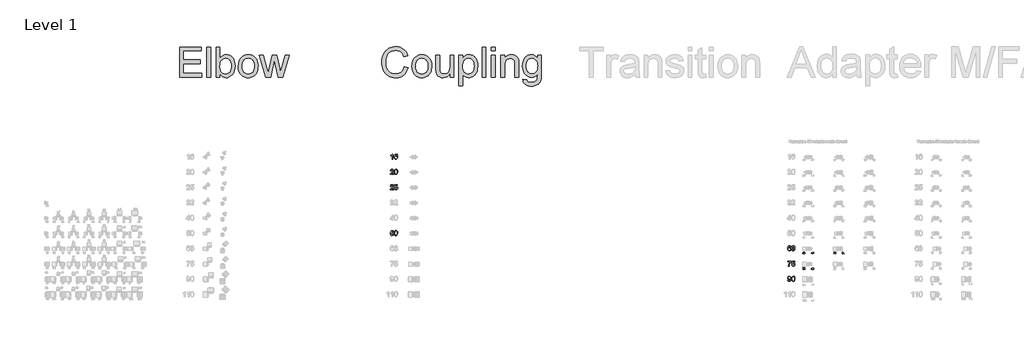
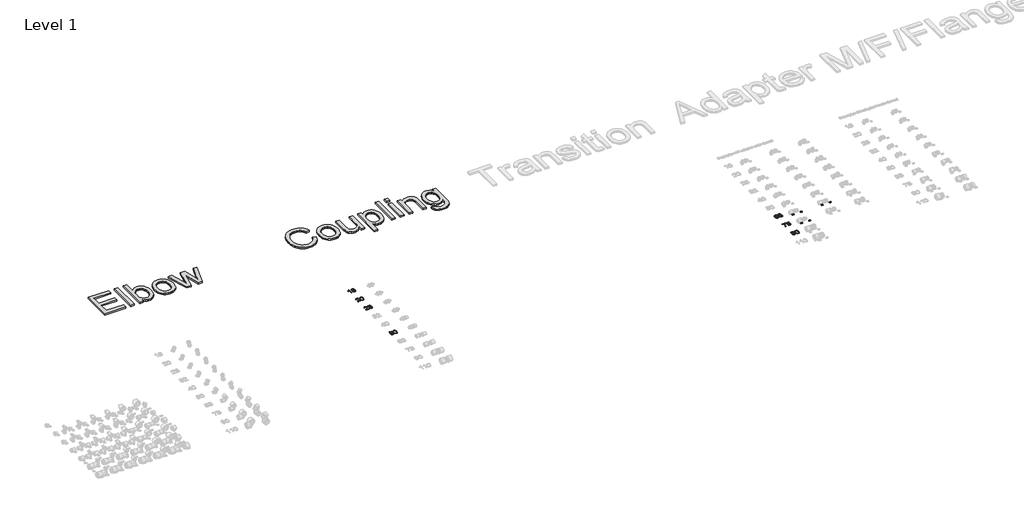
# One storey, part 33 of 58: 15 proxies.
"""IFC4 building model written with IfcOpenShell, lengths in millimetres."""

from ifc_helpers import new_model, si_unit, frame, origin, place, context, project, spatial, polyline, outline, extrude, element, save

model = new_model("IFC4")

# Units and contexts
model_context = context("Model", 3, world=origin())
ifc_project = project(units=[si_unit("LENGTHUNIT", "METRE", prefix="MILLI")], contexts=[model_context])

# Site, building, storey
site = spatial("IfcSite", under=ifc_project)
building = spatial("IfcBuilding", under=site)
storey = spatial("IfcBuildingStorey", under=building, Name="Level 1", Elevation=27.3876384)

# Proxies
placement = place(None, origin())
element("IfcBuildingElementProxy", 1, Name="100mm Arial", ObjectType="100mm Arial", at=placement, inside=storey, context=model_context, shape_type="SweptSolid", body=[
    extrude(outline(polyline([(21031.5703727, 18606.196048), (21019.0133339, 18606.196048), (21019.0133339, 18684.4813365), (21007.1184827, 18676.0077879), (20993.8992564, 18669.6679549), (20993.8992564, 18681.5382806), (21012.3056189, 18693.285979), (21023.4769688, 18706.6523581), (21031.5703727, 18706.6523581), (21031.5703727, 18606.196048)])), frame((0.0, 0.0, 27.3876384), z_axis=(0.0, 0.0, 1.0), x_axis=(1.0, 0.0, 0.0)), (0.0, 0.0, 1.0), 2.0),
    extrude(outline(polyline([(21125.7481635, 18679.9686507), (21113.1911247, 18678.3990209), (21108.4331842, 18688.871395), (21095.85162, 18694.0953193), (21084.5208545, 18691.0541615), (21075.949204, 18679.6375569), (21072.3807487, 18657.2580689), (21083.4539967, 18667.2767219), (21097.1759952, 18670.5508717), (21108.7765407, 18668.3129229), (21118.5131509, 18661.5990764), (21125.1166327, 18651.3413001), (21127.3177933, 18638.4715617), (21123.1729895, 18621.1443197), (21111.7686476, 18608.8815865), (21095.3120597, 18604.6264181), (21081.0658295, 18607.4468468), (21069.7197356, 18615.9081326), (21062.2977163, 18630.8441416), (21059.8237099, 18653.0887396), (21062.5705621, 18678.0985839), (21070.8111188, 18695.1989653), (21082.0621765, 18703.7890099), (21096.6364349, 18706.6523581), (21107.6545007, 18704.8803932), (21116.4775372, 18699.5644983), (21122.6579547, 18691.1216066), (21125.7481635, 18679.9686507)]), holes=[polyline([(21072.3807487, 18638.6677654), (21075.2870164, 18627.7907211), (21083.0125383, 18619.8935209), (21094.3310411, 18617.1834569), (21102.617583, 18618.5875398), (21109.13216, 18622.7997887), (21113.3536059, 18629.4216646), (21114.7607545, 18638.0546288), (21113.372, 18646.3411707), (21109.2057364, 18652.659544), (21102.5807948, 18656.6602607), (21093.8160063, 18657.9938329), (21078.6224799, 18652.659544), (21073.9411815, 18646.4944549), (21072.3807487, 18638.6677654)])]), frame((0.0, 0.0, 27.3876384), z_axis=(0.0, 0.0, 1.0), x_axis=(1.0, 0.0, 0.0)), (0.0, 0.0, 1.0), 2.0),
])
element("IfcBuildingElementProxy", 2, Name="100mm Arial", ObjectType="100mm Arial", at=placement, inside=storey, context=model_context, shape_type="SweptSolid", body=[
    extrude(outline(polyline([(21048.836301, 18318.7530867), (21048.836301, 18306.196048), (20982.9118475, 18306.196048), (20984.2607481, 18314.8535376), (20991.8881681, 18328.1831285), (21007.6089921, 18342.7389928), (21029.2895043, 18363.6592156), (21034.7096324, 18377.8839861), (21029.5960726, 18389.3986925), (21016.2419562, 18394.0953193), (21002.3237541, 18389.5090571), (20997.0385161, 18376.829391), (20984.4814773, 18378.3990209), (20987.5257008, 18390.5452581), (20994.1077228, 18399.4173455), (21003.8841869, 18404.843605), (21016.5117363, 18406.6523581), (21029.2312563, 18404.6412699), (21038.9893263, 18398.6080052), (21045.1973349, 18389.5948963), (21047.2666711, 18378.6442756), (21045.0348537, 18366.7371616), (21037.6159001, 18354.4253775), (21019.6264706, 18337.2207629), (21005.1809709, 18325.1419707), (20999.5155882, 18318.7530867), (21048.836301, 18318.7530867)])), frame((0.0, 0.0, 27.3876384), z_axis=(0.0, 0.0, 1.0), x_axis=(1.0, 0.0, 0.0)), (0.0, 0.0, 1.0), 2.0),
    extrude(outline(polyline([(21061.3933398, 18355.6148627), (21065.0844224, 18384.5181247), (21076.0473059, 18401.1831791), (21094.3555665, 18406.6523581), (21109.0217954, 18403.4149966), (21119.150813, 18394.0830566), (21125.0369249, 18379.220624), (21127.3177933, 18355.6148627), (21123.6634988, 18326.8342279), (21112.7374036, 18310.1323853), (21104.5060439, 18306.0029099), (21094.3555665, 18304.6264181), (21081.3080184, 18307.0176511), (21071.39973, 18314.19135), (21063.8949373, 18331.1813668), (21061.3933398, 18355.6148627)]), holes=[polyline([(21073.9503785, 18355.6393881), (21075.4219065, 18335.8871907), (21079.8364905, 18324.4552577), (21086.4093154, 18319.0014071), (21094.3555665, 18317.1834569), (21102.3018176, 18319.0075385), (21108.8746426, 18324.4797831), (21113.2892265, 18335.9178475), (21114.7607545, 18355.6393881), (21113.3382775, 18374.9470615), (21109.0708463, 18386.4678993), (21102.5102841, 18392.1884643), (21094.2084137, 18394.0953193), (21086.3480018, 18392.4153249), (21080.0326942, 18387.3753416), (21075.4709574, 18375.1371339), (21073.9503785, 18355.6393881)])]), frame((0.0, 0.0, 27.3876384), z_axis=(0.0, 0.0, 1.0), x_axis=(1.0, 0.0, 0.0)), (0.0, 0.0, 1.0), 2.0),
])
element("IfcBuildingElementProxy", 3, Name="100mm Arial", ObjectType="100mm Arial", at=placement, inside=storey, context=model_context, shape_type="SweptSolid", body=[
    extrude(outline(polyline([(21048.836301, 18018.7530867), (21048.836301, 18006.196048), (20982.9118475, 18006.196048), (20984.2607481, 18014.8535376), (20991.8881681, 18028.1831285), (21007.6089921, 18042.7389928), (21029.2895043, 18063.6592156), (21034.7096324, 18077.8839861), (21029.5960726, 18089.3986925), (21016.2419562, 18094.0953193), (21002.3237541, 18089.5090571), (20997.0385161, 18076.829391), (20984.4814773, 18078.3990209), (20987.5257008, 18090.5452581), (20994.1077228, 18099.4173455), (21003.8841869, 18104.843605), (21016.5117363, 18106.6523581), (21029.2312563, 18104.6412699), (21038.9893263, 18098.6080052), (21045.1973349, 18089.5948963), (21047.2666711, 18078.6442756), (21045.0348537, 18066.7371616), (21037.6159001, 18054.4253775), (21019.6264706, 18037.2207629), (21005.1809709, 18025.1419707), (20999.5155882, 18018.7530867), (21048.836301, 18018.7530867)])), frame((0.0, 0.0, 27.3876384), z_axis=(0.0, 0.0, 1.0), x_axis=(1.0, 0.0, 0.0)), (0.0, 0.0, 1.0), 2.0),
    extrude(outline(polyline([(21061.3933398, 18032.8797554), (21073.9503785, 18034.4493852), (21080.2779488, 18021.5122017), (21093.3990733, 18017.1834569), (21102.3999195, 18018.6887074), (21109.1444227, 18023.2044589), (21113.3566716, 18030.2095452), (21114.7607545, 18039.1828002), (21109.500042, 18054.0942837), (21102.8934945, 18058.196168), (21093.5952771, 18059.5634627), (21082.57108, 18057.3806962), (21075.5200084, 18051.7153135), (21062.9629696, 18053.2849434), (21073.9503785, 18105.0827283), (21122.6089038, 18105.0827283), (21122.6089038, 18092.5256895), (21084.1039216, 18092.5256895), (21078.7328445, 18064.8609635), (21087.7030338, 18070.305617), (21097.1024188, 18072.1205015), (21108.8347887, 18069.87029), (21118.5744645, 18063.1196554), (21125.1319611, 18052.8312222), (21127.3177933, 18039.9676151), (21125.3496246, 18027.4105764), (21119.4451186, 18016.6684221), (21108.1388786, 18007.6369191), (21093.3500224, 18004.6264181), (21081.0167785, 18006.5608643), (21071.1912636, 18012.3642028), (21064.4559574, 18021.3619832), (21061.3933398, 18032.8797554)])), frame((0.0, 0.0, 27.3876384), z_axis=(0.0, 0.0, 1.0), x_axis=(1.0, 0.0, 0.0)), (0.0, 0.0, 1.0), 2.0),
])
element("IfcBuildingElementProxy", 4, Name="100mm Arial", ObjectType="100mm Arial", at=placement, inside=storey, context=model_context, shape_type="SweptSolid", body=[
    extrude(outline(polyline([(20984.4814773, 17132.8797554), (20997.0385161, 17134.4493852), (21003.3660864, 17121.5122017), (21016.4872109, 17117.1834569), (21025.488057, 17118.6887074), (21032.2325603, 17123.2044589), (21036.4448091, 17130.2095452), (21037.8488921, 17139.1828002), (21032.5881795, 17154.0942837), (21025.981632, 17158.196168), (21016.6834146, 17159.5634627), (21005.6592175, 17157.3806962), (20998.6081459, 17151.7153135), (20986.0511071, 17153.2849434), (20997.0385161, 17205.0827283), (21045.6970413, 17205.0827283), (21045.6970413, 17192.5256895), (21007.1920591, 17192.5256895), (21001.820982, 17164.8609635), (21010.7911713, 17170.305617), (21020.1905563, 17172.1205015), (21031.9229263, 17169.87029), (21041.6626021, 17163.1196554), (21048.2200987, 17152.8312222), (21050.4059308, 17139.9676151), (21048.4377622, 17127.4105764), (21042.5332561, 17116.6684221), (21031.2270162, 17107.6369191), (21016.43816, 17104.6264181), (21004.1049161, 17106.5608643), (20994.2794011, 17112.3642028), (20987.5440949, 17121.3619832), (20984.4814773, 17132.8797554)])), frame((0.0, 0.0, 27.3876384), z_axis=(0.0, 0.0, 1.0), x_axis=(1.0, 0.0, 0.0)), (0.0, 0.0, 1.0), 2.0),
    extrude(outline(polyline([(21061.3933398, 17155.6148627), (21065.0844224, 17184.5181247), (21076.0473059, 17201.1831791), (21094.3555665, 17206.6523581), (21109.0217954, 17203.4149966), (21119.150813, 17194.0830566), (21125.0369249, 17179.220624), (21127.3177933, 17155.6148627), (21123.6634988, 17126.8342279), (21112.7374036, 17110.1323853), (21104.5060439, 17106.0029099), (21094.3555665, 17104.6264181), (21081.3080184, 17107.0176511), (21071.39973, 17114.19135), (21063.8949373, 17131.1813668), (21061.3933398, 17155.6148627)]), holes=[polyline([(21073.9503785, 17155.6393881), (21075.4219065, 17135.8871907), (21079.8364905, 17124.4552577), (21086.4093154, 17119.0014071), (21094.3555665, 17117.1834569), (21102.3018176, 17119.0075385), (21108.8746426, 17124.4797831), (21113.2892265, 17135.9178475), (21114.7607545, 17155.6393881), (21113.3382775, 17174.9470615), (21109.0708463, 17186.4678993), (21102.5102841, 17192.1884643), (21094.2084137, 17194.0953193), (21086.3480018, 17192.4153249), (21080.0326942, 17187.3753416), (21075.4709574, 17175.1371339), (21073.9503785, 17155.6393881)])]), frame((0.0, 0.0, 27.3876384), z_axis=(0.0, 0.0, 1.0), x_axis=(1.0, 0.0, 0.0)), (0.0, 0.0, 1.0), 2.0),
])
element("IfcBuildingElementProxy", 5, Name="100mm Arial", ObjectType="100mm Arial", at=placement, inside=storey, context=model_context, shape_type="SweptSolid", body=[
    extrude(outline(polyline([(28848.836301, 16879.9686507), (28836.2792622, 16878.3990209), (28831.5213218, 16888.871395), (28818.9397575, 16894.0953193), (28807.6089921, 16891.0541615), (28799.0373416, 16879.6375569), (28795.4688862, 16857.2580689), (28806.5421343, 16867.2767219), (28820.2641327, 16870.5508717), (28831.8646783, 16868.3129229), (28841.6012884, 16861.5990764), (28848.2047702, 16851.3413001), (28850.4059308, 16838.4715617), (28846.261127, 16821.1443197), (28834.8567852, 16808.8815865), (28818.4001973, 16804.6264181), (28804.153967, 16807.4468468), (28792.8078731, 16815.9081326), (28785.3858539, 16830.8441416), (28782.9118475, 16853.0887396), (28785.6586997, 16878.0985839), (28793.8992564, 16895.1989653), (28805.1503141, 16903.7890099), (28819.7245724, 16906.6523581), (28830.7426382, 16904.8803932), (28839.5656747, 16899.5644983), (28845.7460922, 16891.1216066), (28848.836301, 16879.9686507)]), holes=[polyline([(28795.4688862, 16838.6677654), (28798.375154, 16827.7907211), (28806.1006759, 16819.8935209), (28817.4191786, 16817.1834569), (28825.7057205, 16818.5875398), (28832.2202975, 16822.7997887), (28836.4417434, 16829.4216646), (28837.8488921, 16838.0546288), (28836.4601375, 16846.3411707), (28832.2938739, 16852.659544), (28825.6689323, 16856.6602607), (28816.9041438, 16857.9938329), (28801.7106174, 16852.659544), (28797.029319, 16846.4944549), (28795.4688862, 16838.6677654)])]), frame((0.0, 0.0, 27.3876384), z_axis=(0.0, 0.0, 1.0), x_axis=(1.0, 0.0, 0.0)), (0.0, 0.0, 1.0), 2.0),
    extrude(outline(polyline([(28861.3933398, 16832.8797554), (28873.9503785, 16834.4493852), (28880.8788228, 16821.2301588), (28893.8405317, 16817.1834569), (28902.4489704, 16818.5752771), (28909.0953718, 16822.7507378), (28914.7607545, 16836.5340498), (28909.1444227, 16849.5202843), (28894.8706013, 16854.6583695), (28886.0659589, 16853.2849434), (28887.4639105, 16865.8419821), (28889.4749987, 16865.6948293), (28903.7242947, 16869.3000729), (28908.4699724, 16873.8740723), (28910.051865, 16880.3855837), (28905.4656028, 16890.2080329), (28893.644328, 16894.0953193), (28881.6759004, 16890.1712447), (28875.5200084, 16878.3990209), (28862.9629696, 16879.9686507), (28866.6601837, 16891.2442339), (28873.23914, 16899.6626002), (28882.2399862, 16904.9049186), (28893.2028696, 16906.6523581), (28908.3473451, 16903.2065301), (28918.9423465, 16893.788751), (28922.6089038, 16881.1213477), (28919.1262875, 16869.5453275), (28908.8255917, 16861.2311944), (28922.5108019, 16852.6472812), (28927.3177933, 16836.3133206), (28924.9142976, 16824.0751129), (28917.7038105, 16813.8479935), (28906.8206348, 16806.931812), (28893.3990733, 16804.6264181), (28881.2589675, 16806.5945868), (28871.3752046, 16812.4990928), (28864.5019426, 16821.5305958), (28861.3933398, 16832.8797554)])), frame((0.0, 0.0, 27.3876384), z_axis=(0.0, 0.0, 1.0), x_axis=(1.0, 0.0, 0.0)), (0.0, 0.0, 1.0), 2.0),
])
element("IfcBuildingElementProxy", 6, Name="100mm Arial", ObjectType="100mm Arial", at=placement, inside=storey, context=model_context, shape_type="SweptSolid", body=[
    extrude(outline(polyline([(28784.4814773, 16592.5256895), (28784.4814773, 16605.0827283), (28850.4059308, 16605.0827283), (28850.4059308, 16594.9291852), (28831.7052628, 16567.914384), (28817.3946531, 16533.492892), (28812.7348145, 16506.196048), (28800.1777758, 16506.196048), (28805.1687082, 16534.5229616), (28818.8661811, 16566.5409579), (28837.8488921, 16592.5256895), (28784.4814773, 16592.5256895)])), frame((0.0, 0.0, 27.3876384), z_axis=(0.0, 0.0, 1.0), x_axis=(1.0, 0.0, 0.0)), (0.0, 0.0, 1.0), 2.0),
    extrude(outline(polyline([(28861.3933398, 16532.8797554), (28873.9503785, 16534.4493852), (28880.2779488, 16521.5122017), (28893.3990733, 16517.1834569), (28902.3999195, 16518.6887074), (28909.1444227, 16523.2044589), (28913.3566716, 16530.2095452), (28914.7607545, 16539.1828002), (28909.500042, 16554.0942837), (28902.8934945, 16558.196168), (28893.5952771, 16559.5634627), (28882.57108, 16557.3806962), (28875.5200084, 16551.7153135), (28862.9629696, 16553.2849434), (28873.9503785, 16605.0827283), (28922.6089038, 16605.0827283), (28922.6089038, 16592.5256895), (28884.1039216, 16592.5256895), (28878.7328445, 16564.8609635), (28887.7030338, 16570.305617), (28897.1024188, 16572.1205015), (28908.8347887, 16569.87029), (28918.5744645, 16563.1196554), (28925.1319611, 16552.8312222), (28927.3177933, 16539.9676151), (28925.3496246, 16527.4105764), (28919.4451186, 16516.6684221), (28908.1388786, 16507.6369191), (28893.3500224, 16504.6264181), (28881.0167785, 16506.5608643), (28871.1912636, 16512.3642028), (28864.4559574, 16521.3619832), (28861.3933398, 16532.8797554)])), frame((0.0, 0.0, 27.3876384), z_axis=(0.0, 0.0, 1.0), x_axis=(1.0, 0.0, 0.0)), (0.0, 0.0, 1.0), 2.0),
])
element("IfcBuildingElementProxy", 7, Name="100mm Arial", ObjectType="100mm Arial", at=placement, inside=storey, context=model_context, shape_type="SweptSolid", body=[
    extrude(outline(polyline([(28786.0511071, 16231.3101255), (28798.6081459, 16232.8797554), (28804.2490032, 16220.899065), (28814.9421065, 16217.1834569), (28825.1079123, 16219.5746899), (28831.9995683, 16225.9635738), (28836.107584, 16236.8774064), (28837.9224685, 16251.4455334), (28837.8488921, 16253.89808), (28827.8057136, 16244.3821991), (28814.0346642, 16240.7279046), (28802.5843371, 16242.959722), (28793.0531278, 16249.6551743), (28786.6243899, 16259.9987898), (28784.4814773, 16273.1750966), (28786.7286232, 16286.7867304), (28793.4700607, 16297.4553082), (28803.5960126, 16304.3530956), (28815.9967016, 16306.6523581), (28833.8880293, 16301.4039083), (28846.1998134, 16286.4433738), (28850.4059308, 16258.3371894), (28846.2120761, 16227.839772), (28840.9973488, 16217.8487102), (28833.7408765, 16210.561581), (28824.7553587, 16206.1102088), (28814.3534953, 16204.6264181), (28803.6174724, 16206.3769233), (28795.0519533, 16211.6284388), (28789.0616081, 16220.0498708), (28786.0511071, 16231.3101255)]), holes=[polyline([(28837.8488921, 16273.4694022), (28836.4938601, 16281.979739), (28832.428764, 16288.5280385), (28826.1195878, 16292.7034991), (28818.0323153, 16294.0953193), (28809.6446058, 16292.5962002), (28802.924628, 16288.0988428), (28798.5100441, 16281.2163838), (28797.0385161, 16272.5619599), (28798.4303363, 16264.8027155), (28802.6057969, 16258.6437577), (28809.1602278, 16254.624647), (28817.6889587, 16253.2849434), (28832.1712466, 16258.6437577), (28836.4294807, 16265.029576), (28837.8488921, 16273.4694022)])]), frame((0.0, 0.0, 27.3876384), z_axis=(0.0, 0.0, 1.0), x_axis=(1.0, 0.0, 0.0)), (0.0, 0.0, 1.0), 2.0),
    extrude(outline(polyline([(28861.3933398, 16255.6148627), (28865.0844224, 16284.5181247), (28876.0473059, 16301.1831791), (28894.3555665, 16306.6523581), (28909.0217954, 16303.4149966), (28919.150813, 16294.0830566), (28925.0369249, 16279.220624), (28927.3177933, 16255.6148627), (28923.6634988, 16226.8342279), (28912.7374036, 16210.1323853), (28904.5060439, 16206.0029099), (28894.3555665, 16204.6264181), (28881.3080184, 16207.0176511), (28871.39973, 16214.19135), (28863.8949373, 16231.1813668), (28861.3933398, 16255.6148627)]), holes=[polyline([(28873.9503785, 16255.6393881), (28875.4219065, 16235.8871907), (28879.8364905, 16224.4552577), (28886.4093154, 16219.0014071), (28894.3555665, 16217.1834569), (28902.3018176, 16219.0075385), (28908.8746426, 16224.4797831), (28913.2892265, 16235.9178475), (28914.7607545, 16255.6393881), (28913.3382775, 16274.9470615), (28909.0708463, 16286.4678993), (28902.5102841, 16292.1884643), (28894.2084137, 16294.0953193), (28886.3480018, 16292.4153249), (28880.0326942, 16287.3753416), (28875.4709574, 16275.1371339), (28873.9503785, 16255.6393881)])]), frame((0.0, 0.0, 27.3876384), z_axis=(0.0, 0.0, 1.0), x_axis=(1.0, 0.0, 0.0)), (0.0, 0.0, 1.0), 2.0),
])
element("IfcBuildingElementProxy", 8, Name="30mm Arial", ObjectType="30mm Arial", at=placement, inside=storey, context=model_context, shape_type="SweptSolid", body=[
    extrude(outline(polyline([(29101.8418771, 16771.7106348), (29098.0747655, 16771.2397458), (29096.6473834, 16774.381458), (29092.8729141, 16775.9486353), (29089.4736845, 16775.036288), (29086.9021893, 16771.6113066), (29085.8316527, 16764.8974602), (29089.1536271, 16767.9030561), (29093.2702266, 16768.885301), (29099.6713734, 16766.1997625), (29102.3127661, 16759.261508), (29101.0693249, 16754.0633355), (29097.6480224, 16750.3845155), (29092.711046, 16749.107965), (29085.0333488, 16752.4924793), (29082.0645411, 16763.6466614), (29085.3607637, 16776.2797291), (29093.1083586, 16779.715747), (29099.0606892, 16777.589389), (29101.8418771, 16771.7106348)]), holes=[polyline([(29085.8316527, 16759.3203692), (29086.703533, 16756.0572559), (29089.0211896, 16753.6880958), (29092.4167404, 16752.8750766), (29096.8570761, 16754.5599761), (29098.5456545, 16759.1364282), (29096.879149, 16763.5179027), (29092.26223, 16765.1181894), (29087.7041721, 16763.5179027), (29085.8316527, 16759.3203692)])]), frame((0.0, 0.0, 27.3876384), z_axis=(0.0, 0.0, 1.0), x_axis=(1.0, 0.0, 0.0)), (0.0, 0.0, 1.0), 2.0),
    extrude(outline(polyline([(29105.6089888, 16757.5839661), (29109.3761004, 16758.0548551), (29111.4546337, 16754.0890872), (29115.3431464, 16752.8750766), (29119.9195984, 16754.5452609), (29121.6192132, 16758.6802545), (29119.9343137, 16762.5761248), (29115.6521672, 16764.1175504), (29113.0107745, 16763.7055225), (29113.43016, 16767.4726342), (29118.3082752, 16768.5100614), (29120.2065463, 16771.8357146), (29118.8306677, 16774.7824494), (29115.2842852, 16775.9486353), (29111.693757, 16774.771413), (29109.8469893, 16771.2397458), (29106.0798777, 16771.7106348), (29109.1627288, 16777.6188196), (29115.1518477, 16779.715747), (29119.6951904, 16778.6819986), (29122.8736908, 16775.8566648), (29123.973658, 16772.0564438), (29122.9288731, 16768.5836378), (29119.8386643, 16766.0893979), (29123.9442274, 16763.5142239), (29125.3863248, 16758.6140357), (29122.50213, 16751.8744376), (29115.2107088, 16749.107965), (29108.6035482, 16751.4697674), (29105.6089888, 16757.5839661)])), frame((0.0, 0.0, 27.3876384), z_axis=(0.0, 0.0, 1.0), x_axis=(1.0, 0.0, 0.0)), (0.0, 0.0, 1.0), 2.0),
])
element("IfcBuildingElementProxy", 9, Name="30mm Arial", ObjectType="30mm Arial", at=placement, inside=storey, context=model_context, shape_type="SweptSolid", body=[
    extrude(outline(polyline([(29263.5285428, 16749.5788539), (29263.5285428, 16756.6421882), (29249.8727632, 16756.6421882), (29249.8727632, 16760.4092999), (29264.4703207, 16779.244858), (29267.2956545, 16779.244858), (29267.2956545, 16760.4092999), (29271.0627661, 16760.4092999), (29271.0627661, 16756.6421882), (29267.2956545, 16756.6421882), (29267.2956545, 16749.5788539), (29263.5285428, 16749.5788539)]), holes=[polyline([(29263.5285428, 16760.4092999), (29263.5285428, 16772.0490862), (29254.5080763, 16760.4092999), (29263.5285428, 16760.4092999)])]), frame((0.0, 0.0, 27.3876384), z_axis=(0.0, 0.0, 1.0), x_axis=(1.0, 0.0, 0.0)), (0.0, 0.0, 1.0), 2.0),
    extrude(outline(polyline([(29274.3589888, 16764.4044983), (29275.4663136, 16773.075477), (29278.7551786, 16778.0749933), (29284.2476568, 16779.715747), (29288.6475255, 16778.7445385), (29291.6862307, 16775.9449565), (29293.4520643, 16771.4862267), (29294.1363248, 16764.4044983), (29293.0400365, 16755.7703079), (29289.7622079, 16750.7597551), (29284.2476568, 16749.107965), (29277.3609058, 16751.9774445), (29274.3589888, 16764.4044983)]), holes=[polyline([(29278.1261004, 16764.411856), (29279.891934, 16755.0566168), (29284.2476568, 16752.8750766), (29288.6033796, 16755.0639745), (29290.3692132, 16764.411856), (29288.6622407, 16773.6604093), (29284.203511, 16775.9486353), (29279.9507951, 16773.932642), (29278.1261004, 16764.411856)])]), frame((0.0, 0.0, 27.3876384), z_axis=(0.0, 0.0, 1.0), x_axis=(1.0, 0.0, 0.0)), (0.0, 0.0, 1.0), 2.0),
])
element("IfcBuildingElementProxy", 10, Name="30mm Arial", ObjectType="30mm Arial", at=placement, inside=storey, context=model_context, shape_type="SweptSolid", body=[
    extrude(outline(polyline([(29082.53543, 16465.3277464), (29082.53543, 16469.094858), (29102.3127661, 16469.094858), (29102.3127661, 16466.0487951), (29096.7025657, 16457.9443547), (29092.4093828, 16447.6179071), (29091.0114312, 16439.4288539), (29087.2443196, 16439.4288539), (29088.7415993, 16447.926928), (29092.8508412, 16457.5323269), (29098.5456545, 16465.3277464), (29082.53543, 16465.3277464)])), frame((0.0, 0.0, 27.3876384), z_axis=(0.0, 0.0, 1.0), x_axis=(1.0, 0.0, 0.0)), (0.0, 0.0, 1.0), 2.0),
    extrude(outline(polyline([(29105.6089888, 16447.4339661), (29109.3761004, 16447.9048551), (29111.2743715, 16444.0237001), (29115.2107088, 16442.7250766), (29119.9343137, 16444.5313772), (29121.6192132, 16449.3248796), (29120.0409994, 16453.7983247), (29115.26957, 16455.4390784), (29111.9623108, 16454.7842484), (29109.8469893, 16453.0846336), (29106.0798777, 16453.5555225), (29109.3761004, 16469.094858), (29123.973658, 16469.094858), (29123.973658, 16465.3277464), (29112.4221633, 16465.3277464), (29110.8108402, 16457.0283286), (29116.3217125, 16459.20619), (29122.7633262, 16456.5059361), (29125.3863248, 16449.5603241), (29123.0245224, 16442.5705662), (29115.1959936, 16438.957965), (29108.5483659, 16441.2793004), (29105.6089888, 16447.4339661)])), frame((0.0, 0.0, 27.3876384), z_axis=(0.0, 0.0, 1.0), x_axis=(1.0, 0.0, 0.0)), (0.0, 0.0, 1.0), 2.0),
])
element("IfcBuildingElementProxy", 11, Name="30mm Arial", ObjectType="30mm Arial", at=placement, inside=storey, context=model_context, shape_type="SweptSolid", body=[
    extrude(outline(polyline([(29263.5285428, 16439.4288539), (29263.5285428, 16446.4921882), (29249.8727632, 16446.4921882), (29249.8727632, 16450.2592999), (29264.4703207, 16469.094858), (29267.2956545, 16469.094858), (29267.2956545, 16450.2592999), (29271.0627661, 16450.2592999), (29271.0627661, 16446.4921882), (29267.2956545, 16446.4921882), (29267.2956545, 16439.4288539), (29263.5285428, 16439.4288539)]), holes=[polyline([(29263.5285428, 16450.2592999), (29263.5285428, 16461.8990862), (29254.5080763, 16450.2592999), (29263.5285428, 16450.2592999)])]), frame((0.0, 0.0, 27.3876384), z_axis=(0.0, 0.0, 1.0), x_axis=(1.0, 0.0, 0.0)), (0.0, 0.0, 1.0), 2.0),
    extrude(outline(polyline([(29274.3589888, 16454.2544983), (29275.4663136, 16462.925477), (29278.7551786, 16467.9249933), (29284.2476568, 16469.565747), (29288.6475255, 16468.5945385), (29291.6862307, 16465.7949565), (29293.4520643, 16461.3362267), (29294.1363248, 16454.2544983), (29293.0400365, 16445.6203079), (29289.7622079, 16440.6097551), (29284.2476568, 16438.957965), (29277.3609058, 16441.8274445), (29274.3589888, 16454.2544983)]), holes=[polyline([(29278.1261004, 16454.261856), (29279.891934, 16444.9066168), (29284.2476568, 16442.7250766), (29288.6033796, 16444.9139745), (29290.3692132, 16454.261856), (29288.6622407, 16463.5104093), (29284.203511, 16465.7986353), (29279.9507951, 16463.782642), (29278.1261004, 16454.261856)])]), frame((0.0, 0.0, 27.3876384), z_axis=(0.0, 0.0, 1.0), x_axis=(1.0, 0.0, 0.0)), (0.0, 0.0, 1.0), 2.0),
])
element("IfcBuildingElementProxy", 12, Name="30mm Arial", ObjectType="30mm Arial", at=placement, inside=storey, context=model_context, shape_type="SweptSolid", body=[
    extrude(outline(polyline([(29706.8418771, 16771.7106348), (29703.0747655, 16771.2397458), (29701.6473834, 16774.381458), (29697.8729141, 16775.9486353), (29694.4736845, 16775.036288), (29691.9021893, 16771.6113066), (29690.8316527, 16764.8974602), (29694.1536271, 16767.9030561), (29698.2702266, 16768.885301), (29704.6713734, 16766.1997625), (29707.3127661, 16759.261508), (29706.0693249, 16754.0633355), (29702.6480224, 16750.3845155), (29697.711046, 16749.107965), (29690.0333488, 16752.4924793), (29687.0645411, 16763.6466614), (29690.3607637, 16776.2797291), (29698.1083586, 16779.715747), (29704.0606892, 16777.589389), (29706.8418771, 16771.7106348)]), holes=[polyline([(29690.8316527, 16759.3203692), (29691.703533, 16756.0572559), (29694.0211896, 16753.6880958), (29697.4167404, 16752.8750766), (29701.8570761, 16754.5599761), (29703.5456545, 16759.1364282), (29701.879149, 16763.5179027), (29697.26223, 16765.1181894), (29692.7041721, 16763.5179027), (29690.8316527, 16759.3203692)])]), frame((0.0, 0.0, 27.3876384), z_axis=(0.0, 0.0, 1.0), x_axis=(1.0, 0.0, 0.0)), (0.0, 0.0, 1.0), 2.0),
    extrude(outline(polyline([(29710.6089888, 16757.5839661), (29714.3761004, 16758.0548551), (29716.4546337, 16754.0890872), (29720.3431464, 16752.8750766), (29724.9195984, 16754.5452609), (29726.6192132, 16758.6802545), (29724.9343137, 16762.5761248), (29720.6521672, 16764.1175504), (29718.0107745, 16763.7055225), (29718.43016, 16767.4726342), (29723.3082752, 16768.5100614), (29725.2065463, 16771.8357146), (29723.8306677, 16774.7824494), (29720.2842852, 16775.9486353), (29716.693757, 16774.771413), (29714.8469893, 16771.2397458), (29711.0798777, 16771.7106348), (29714.1627288, 16777.6188196), (29720.1518477, 16779.715747), (29724.6951904, 16778.6819986), (29727.8736908, 16775.8566648), (29728.973658, 16772.0564438), (29727.9288731, 16768.5836378), (29724.8386643, 16766.0893979), (29728.9442274, 16763.5142239), (29730.3863248, 16758.6140357), (29727.50213, 16751.8744376), (29720.2107088, 16749.107965), (29713.6035482, 16751.4697674), (29710.6089888, 16757.5839661)])), frame((0.0, 0.0, 27.3876384), z_axis=(0.0, 0.0, 1.0), x_axis=(1.0, 0.0, 0.0)), (0.0, 0.0, 1.0), 2.0),
])
element("IfcBuildingElementProxy", 13, Name="30mm Arial", ObjectType="30mm Arial", at=placement, inside=storey, context=model_context, shape_type="SweptSolid", body=[
    extrude(outline(polyline([(29856.28543, 16757.5839661), (29860.0525417, 16758.0548551), (29861.9508128, 16754.1737001), (29865.8871501, 16752.8750766), (29870.6107549, 16754.6813772), (29872.2956545, 16759.4748796), (29870.7174407, 16763.9483247), (29865.9460112, 16765.5890784), (29862.6387521, 16764.9342484), (29860.5234306, 16763.2346336), (29856.756319, 16763.7055225), (29860.0525417, 16779.244858), (29874.6500992, 16779.244858), (29874.6500992, 16775.4777464), (29863.0986046, 16775.4777464), (29861.4872814, 16767.1783286), (29866.9981537, 16769.35619), (29873.4397675, 16766.6559361), (29876.0627661, 16759.7103241), (29873.7009637, 16752.7205662), (29865.8724348, 16749.107965), (29859.2248072, 16751.4293004), (29856.28543, 16757.5839661)])), frame((0.0, 0.0, 27.3876384), z_axis=(0.0, 0.0, 1.0), x_axis=(1.0, 0.0, 0.0)), (0.0, 0.0, 1.0), 2.0),
    extrude(outline(polyline([(29879.3589888, 16764.4044983), (29880.4663136, 16773.075477), (29883.7551786, 16778.0749933), (29889.2476568, 16779.715747), (29893.6475255, 16778.7445385), (29896.6862307, 16775.9449565), (29898.4520643, 16771.4862267), (29899.1363248, 16764.4044983), (29898.0400365, 16755.7703079), (29894.7622079, 16750.7597551), (29889.2476568, 16749.107965), (29882.3609058, 16751.9774445), (29879.3589888, 16764.4044983)]), holes=[polyline([(29883.1261004, 16764.411856), (29884.891934, 16755.0566168), (29889.2476568, 16752.8750766), (29893.6033796, 16755.0639745), (29895.3692132, 16764.411856), (29893.6622407, 16773.6604093), (29889.203511, 16775.9486353), (29884.9507951, 16773.932642), (29883.1261004, 16764.411856)])]), frame((0.0, 0.0, 27.3876384), z_axis=(0.0, 0.0, 1.0), x_axis=(1.0, 0.0, 0.0)), (0.0, 0.0, 1.0), 2.0),
])
element("IfcBuildingElementProxy", 14, Name="600mm Arial", ObjectType="600mm Arial", at=placement, inside=storey, context=model_context, shape_type="SweptSolid", body=[
    extrude(outline(polyline([(16845.4337219, 20213.7679008), (16845.4337219, 20804.5371316), (17270.0491065, 20804.5371316), (17270.0491065, 20730.6909777), (16919.2798757, 20730.6909777), (16919.2798757, 20555.3063623), (17251.587568, 20555.3063623), (17251.587568, 20481.4602085), (16919.2798757, 20481.4602085), (16919.2798757, 20287.6140547), (17279.2798757, 20287.6140547), (17279.2798757, 20213.7679008), (16845.4337219, 20213.7679008)])), frame((0.0, 0.0, 27.3876384), z_axis=(0.0, 0.0, 1.0), x_axis=(1.0, 0.0, 0.0)), (0.0, 0.0, 1.0), 30.0),
    extrude(outline(polyline([(17380.8183372, 20213.7679008), (17380.8183372, 20804.5371316), (17454.6644911, 20804.5371316), (17454.6644911, 20213.7679008), (17380.8183372, 20213.7679008)])), frame((0.0, 0.0, 27.3876384), z_axis=(0.0, 0.0, 1.0), x_axis=(1.0, 0.0, 0.0)), (0.0, 0.0, 1.0), 30.0),
    extrude(outline(polyline([(17639.2798757, 20213.7679008), (17565.4337219, 20213.7679008), (17565.4337219, 20804.5371316), (17639.2798757, 20804.5371316), (17639.2798757, 20585.4505931), (17663.5647315, 20616.6855691), (17690.9866065, 20638.9962662), (17721.5455007, 20652.3826845), (17755.2414142, 20656.8448239), (17793.2822796, 20652.8243912), (17829.2317988, 20640.7630931), (17861.0346834, 20621.4181412), (17886.6356449, 20595.546747), (17906.7017507, 20563.4013143), (17921.900068, 20525.234247), (17931.4733853, 20482.6320835), (17934.6644911, 20437.1813623), (17931.360705, 20384.7354489), (17921.4493469, 20338.5996316), (17904.9304166, 20298.7739104), (17881.8039142, 20265.2582854), (17854.0439983, 20238.6927806), (17823.6248276, 20219.71742), (17790.5464022, 20208.3322037), (17754.8087219, 20204.5371316), (17720.0040344, 20209.4319633), (17689.1476642, 20224.1164585), (17662.2396113, 20248.5906172), (17639.2798757, 20282.8544393), (17639.2798757, 20213.7679008)]), holes=[polyline([(17639.2798757, 20433.7198239), (17644.3279526, 20372.1332854), (17650.6380488, 20348.8039585), (17659.4721834, 20330.4505931), (17677.3658132, 20307.671146), (17698.1620872, 20291.4001123), (17721.8610055, 20281.6374922), (17748.462568, 20278.3832854), (17770.5479046, 20280.781122), (17791.0827603, 20287.9746316), (17810.0671353, 20299.9638143), (17827.5010296, 20316.74867), (17842.0773517, 20338.2841268), (17852.4890103, 20364.5251123), (17858.7360055, 20395.4716268), (17860.8183372, 20431.12367), (17858.8216425, 20467.451795), (17852.8315584, 20498.6957854), (17842.8480848, 20524.8556412), (17828.8712219, 20545.9313623), (17812.06383, 20562.1483095), (17793.5887699, 20573.7318431), (17773.4460416, 20580.6819633), (17751.6356449, 20582.99867), (17729.5503084, 20580.6008335), (17709.0154526, 20573.4073239), (17690.0310776, 20561.4181412), (17672.5971834, 20544.6332854), (17658.0208613, 20523.3141748), (17647.6092026, 20497.7222277), (17641.3622074, 20467.8574441), (17639.2798757, 20433.7198239)])]), frame((0.0, 0.0, 27.3876384), z_axis=(0.0, 0.0, 1.0), x_axis=(1.0, 0.0, 0.0)), (0.0, 0.0, 1.0), 30.0),
    extrude(outline(polyline([(17999.2798757, 20430.6909777), (18003.2732651, 20486.8778768), (18015.2534334, 20535.2943431), (18035.2203805, 20575.9403768), (18063.1741065, 20608.8159777), (18091.3171353, 20629.8285979), (18122.3808372, 20644.8376123), (18156.3652122, 20653.843021), (18193.2702603, 20656.8448239), (18234.0109454, 20653.1894753), (18270.8483853, 20642.2234297), (18303.78258, 20623.9466869), (18332.8135296, 20598.359247), (18356.5079406, 20566.3264946), (18373.4325199, 20528.7138143), (18383.5872675, 20485.5212061), (18386.9721834, 20436.74867), (18385.4757892, 20397.2204248), (18380.9866065, 20362.1453047), (18373.5046353, 20331.5233095), (18363.0298757, 20305.3544393), (18349.6930368, 20282.7507734), (18333.6248276, 20262.8243912), (18314.8252483, 20245.5752926), (18293.2942988, 20231.0034777), (18269.8703204, 20219.4244513), (18245.3916546, 20211.1537181), (18219.8583012, 20206.1912782), (18193.2702603, 20204.5371316), (18151.9346233, 20208.1789585), (18114.7546353, 20219.1044393), (18081.7302964, 20237.3135739), (18052.8616065, 20262.8063623), (18029.4195993, 20295.1501123), (18012.6753084, 20333.9121316), (18002.6287339, 20379.09242), (17999.2798757, 20430.6909777)]), holes=[polyline([(18073.1260296, 20430.8352085), (18075.2624478, 20395.0163984), (18081.6717026, 20364.0022758), (18092.353794, 20337.7928407), (18107.3087219, 20316.3880931), (18125.4998276, 20299.7609897), (18145.8904526, 20287.8844873), (18168.4805969, 20280.7585859), (18193.2702603, 20278.3832854), (18217.9337219, 20280.7721075), (18240.4337219, 20287.9385739), (18260.7702603, 20299.8826845), (18278.9433372, 20316.6044393), (18293.8982651, 20338.2210258), (18304.5803565, 20364.8496316), (18310.9896113, 20396.4902566), (18313.1260296, 20433.1429008), (18310.9760897, 20467.8258936), (18304.5262699, 20498.0287181), (18293.7765704, 20523.7513744), (18278.7269911, 20544.9938623), (18260.486306, 20561.6209657), (18240.1632892, 20573.4974681), (18217.7579406, 20580.6233696), (18193.2702603, 20582.99867), (18168.4805969, 20580.632384), (18145.8904526, 20573.5335258), (18125.4998276, 20561.7020955), (18107.3087219, 20545.1380931), (18092.353794, 20523.7964465), (18081.6717026, 20497.6320835), (18075.2624478, 20466.6450042), (18073.1260296, 20430.8352085)])]), frame((0.0, 0.0, 27.3876384), z_axis=(0.0, 0.0, 1.0), x_axis=(1.0, 0.0, 0.0)), (0.0, 0.0, 1.0), 30.0),
    extrude(outline(polyline([(18542.0202603, 20213.7679008), (18410.0491065, 20647.6140547), (18486.7798757, 20647.6140547), (18561.6356449, 20394.4890547), (18583.9914142, 20304.0563623), (18602.3087219, 20391.171747), (18661.8760296, 20647.6140547), (18749.8567988, 20647.6140547), (18809.1356449, 20391.8929008), (18825.4337219, 20312.99867), (18848.7991065, 20396.2198239), (18923.7991065, 20647.6140547), (19000.8183372, 20647.6140547), (18867.837568, 20213.7679008), (18778.5587219, 20213.7679008), (18721.8760296, 20468.1909777), (18705.4337219, 20547.5179008), (18632.3087219, 20213.7679008), (18542.0202603, 20213.7679008)])), frame((0.0, 0.0, 27.3876384), z_axis=(0.0, 0.0, 1.0), x_axis=(1.0, 0.0, 0.0)), (0.0, 0.0, 1.0), 30.0),
])
element("IfcBuildingElementProxy", 15, Name="600mm Arial", ObjectType="600mm Arial", at=placement, inside=storey, context=model_context, shape_type="SweptSolid", body=[
    extrude(outline(polyline([(21260.8183372, 20423.7679008), (21334.6644911, 20404.7294393), (21320.0521113, 20358.8054609), (21300.5899719, 20318.6777566), (21276.2780728, 20284.3463263), (21247.1164142, 20255.81117), (21213.7630488, 20233.3787782), (21176.8760296, 20217.3556412), (21136.4553565, 20207.741759), (21092.5010296, 20204.5371316), (21047.4694791, 20206.9620114), (21006.8459815, 20214.2366508), (20970.6305368, 20226.3610498), (20938.8231449, 20243.3352085), (20910.9866065, 20264.9067229), (20886.6837219, 20290.8231893), (20865.9144911, 20321.0846075), (20848.6789142, 20355.6909777), (20835.1437579, 20393.1459056), (20825.4757892, 20431.952997), (20819.6750079, 20472.1122518), (20817.7414142, 20513.62367), (20819.9274118, 20558.1639345), (20826.4854046, 20599.765497), (20837.4153925, 20638.4283575), (20852.7173757, 20674.1525162), (20872.048806, 20706.3475282), (20895.0671353, 20734.4229489), (20921.7723637, 20758.3787782), (20952.1644911, 20778.2150162), (20985.2113661, 20793.7694032), (21019.8808372, 20804.8796797), (21056.1729046, 20811.5458455), (21094.087568, 20813.7679008), (21136.3246473, 20810.8922998), (21175.0551161, 20802.265497), (21210.2789743, 20787.8874922), (21241.9962219, 20767.7582854), (21269.6840223, 20742.4097277), (21292.8195392, 20712.37367), (21311.4027723, 20677.6501123), (21325.4337219, 20638.2390547), (21251.587568, 20620.6429008), (21239.9589622, 20649.6828647), (21225.9866065, 20674.4950643), (21209.6705007, 20695.0794994), (21191.0106449, 20711.43617), (21169.8988661, 20723.8986099), (21146.2269911, 20732.8003527), (21119.9950199, 20738.1413984), (21091.2029526, 20739.921747), (21058.0749478, 20737.9475883), (21027.7774719, 20732.0251123), (21000.3105247, 20722.1543191), (20975.6741065, 20708.3352085), (20954.1792147, 20691.1897758), (20936.1368469, 20671.3400162), (20921.5470031, 20648.7859297), (20910.4096834, 20623.5275162), (20896.2930969, 20569.4770354), (20891.587568, 20513.7679008), (20897.1584815, 20445.546747), (20904.1221233, 20414.8977085), (20913.8712219, 20386.5563623), (20926.5635296, 20361.0861099), (20942.3567988, 20339.0503527), (20961.2510296, 20320.4490907), (20983.2462219, 20305.2823239), (21007.2741666, 20293.5139946), (21032.2666546, 20285.108045), (21058.2236858, 20280.0644753), (21085.1452603, 20278.3832854), (21117.2501281, 20280.6729489), (21146.7858853, 20287.5419393), (21173.752532, 20298.9902566), (21198.150068, 20315.0179008), (21219.4015704, 20335.5527566), (21236.9301161, 20360.5227085), (21250.735705, 20389.9277566), (21260.8183372, 20423.7679008)])), frame((0.0, 0.0, 27.3876384), z_axis=(0.0, 0.0, 1.0), x_axis=(1.0, 0.0, 0.0)), (0.0, 0.0, 1.0), 30.0),
    extrude(outline(polyline([(21408.5106449, 20430.6909777), (21412.5040344, 20486.8778768), (21424.4842026, 20535.2943431), (21444.4511497, 20575.9403768), (21472.4048757, 20608.8159777), (21500.5479046, 20629.8285979), (21531.6116065, 20644.8376123), (21565.5959815, 20653.843021), (21602.5010296, 20656.8448239), (21643.2417147, 20653.1894753), (21680.0791546, 20642.2234297), (21713.0133493, 20623.9466869), (21742.0442988, 20598.359247), (21765.7387098, 20566.3264946), (21782.6632892, 20528.7138143), (21792.8180368, 20485.5212061), (21796.2029526, 20436.74867), (21794.7065584, 20397.2204248), (21790.2173757, 20362.1453047), (21782.7354046, 20331.5233095), (21772.2606449, 20305.3544393), (21758.923806, 20282.7507734), (21742.8555969, 20262.8243912), (21724.0560175, 20245.5752926), (21702.525068, 20231.0034777), (21679.1010897, 20219.4244513), (21654.6224238, 20211.1537181), (21629.0890704, 20206.1912782), (21602.5010296, 20204.5371316), (21561.1653925, 20208.1789585), (21523.9854046, 20219.1044393), (21490.9610656, 20237.3135739), (21462.0923757, 20262.8063623), (21438.6503685, 20295.1501123), (21421.9060776, 20333.9121316), (21411.8595031, 20379.09242), (21408.5106449, 20430.6909777)]), holes=[polyline([(21482.3567988, 20430.8352085), (21484.4932171, 20395.0163984), (21490.9024719, 20364.0022758), (21501.5845632, 20337.7928407), (21516.5394911, 20316.3880931), (21534.7305969, 20299.7609897), (21555.1212219, 20287.8844873), (21577.7113661, 20280.7585859), (21602.5010296, 20278.3832854), (21627.1644911, 20280.7721075), (21649.6644911, 20287.9385739), (21670.0010296, 20299.8826845), (21688.1741065, 20316.6044393), (21703.1290344, 20338.2210258), (21713.8111257, 20364.8496316), (21720.2203805, 20396.4902566), (21722.3567988, 20433.1429008), (21720.2068589, 20467.8258936), (21713.7570392, 20498.0287181), (21703.0073397, 20523.7513744), (21687.9577603, 20544.9938623), (21669.7170752, 20561.6209657), (21649.3940584, 20573.4974681), (21626.9887098, 20580.6233696), (21602.5010296, 20582.99867), (21577.7113661, 20580.632384), (21555.1212219, 20573.5335258), (21534.7305969, 20561.7020955), (21516.5394911, 20545.1380931), (21501.5845632, 20523.7964465), (21490.9024719, 20497.6320835), (21484.4932171, 20466.6450042), (21482.3567988, 20430.8352085)])]), frame((0.0, 0.0, 27.3876384), z_axis=(0.0, 0.0, 1.0), x_axis=(1.0, 0.0, 0.0)), (0.0, 0.0, 1.0), 30.0),
    extrude(outline(polyline([(22156.2029526, 20213.7679008), (22156.2029526, 20288.3352085), (22129.4842026, 20251.6735498), (22098.3664142, 20225.4866508), (22062.8495872, 20209.7745114), (22022.9337219, 20204.5371316), (21986.9661738, 20208.2150162), (21953.4866065, 20219.24867), (21925.3976642, 20235.8352085), (21905.6019911, 20256.171747), (21892.2786738, 20280.8712662), (21883.6067988, 20310.546747), (21879.2798757, 20379.2005931), (21879.2798757, 20647.6140547), (21953.1260296, 20647.6140547), (21953.1260296, 20413.9602085), (21954.243818, 20367.2294393), (21957.5971834, 20338.671747), (21968.3604046, 20313.5575643), (21986.8039142, 20294.4650162), (22011.7017507, 20282.4037181), (22041.8279526, 20278.3832854), (22073.6849238, 20282.4938623), (22103.4866065, 20294.8255931), (22128.0599238, 20314.2426604), (22144.2317988, 20339.609247), (22153.2101642, 20374.3508335), (22156.2029526, 20421.8929008), (22156.2029526, 20647.6140547), (22230.0491065, 20647.6140547), (22230.0491065, 20213.7679008), (22156.2029526, 20213.7679008)])), frame((0.0, 0.0, 27.3876384), z_axis=(0.0, 0.0, 1.0), x_axis=(1.0, 0.0, 0.0)), (0.0, 0.0, 1.0), 30.0),
    extrude(outline(polyline([(22331.587568, 20047.6140547), (22331.587568, 20647.6140547), (22405.4337219, 20647.6140547), (22405.4337219, 20575.2102085), (22429.5202603, 20610.9253527), (22456.4914142, 20636.43617), (22487.9337219, 20651.7426604), (22525.4337219, 20656.8448239), (22551.1879286, 20655.0599681), (22575.3736257, 20649.7054008), (22597.9908132, 20640.781122), (22619.0394911, 20628.2871316), (22638.0599238, 20612.5479489), (22654.5923757, 20593.8880931), (22668.6368469, 20572.3075643), (22680.1933372, 20547.8063623), (22695.6620872, 20493.3953047), (22700.8183372, 20434.0082854), (22694.9950199, 20370.8532373), (22687.7158733, 20341.7772157), (22677.525068, 20314.3688623), (22664.5623276, 20289.3448239), (22648.9673757, 20267.421747), (22630.7402122, 20248.5996316), (22609.8808372, 20232.8784777), (22587.4123877, 20220.4791388), (22564.3580007, 20211.6224681), (22540.7176762, 20206.3084657), (22516.4914142, 20204.5371316), (22482.5430969, 20209.2787181), (22452.2366065, 20223.5034777), (22426.2930969, 20244.9758335), (22405.4337219, 20271.4602085), (22405.4337219, 20047.6140547), (22331.587568, 20047.6140547)]), holes=[polyline([(22405.4337219, 20427.2294393), (22407.4304166, 20391.640497), (22413.4205007, 20361.0275162), (22423.4039743, 20335.390497), (22437.3808372, 20314.7294393), (22454.2062579, 20298.827997), (22472.7354046, 20287.4698239), (22492.9682772, 20280.65492), (22514.9048757, 20278.3832854), (22537.1569791, 20280.7360498), (22557.759443, 20287.7943431), (22576.7122675, 20299.5581652), (22594.0154526, 20316.0275162), (22608.4340223, 20337.436771), (22618.7330007, 20364.0203047), (22624.9123877, 20395.7781172), (22626.9721834, 20432.7102085), (22624.9619671, 20467.9926604), (22618.931318, 20498.5515547), (22608.8802363, 20524.3868912), (22594.8087219, 20545.49867), (22577.9427363, 20561.90492), (22559.5082411, 20573.62367), (22539.5052363, 20580.65492), (22517.9337219, 20582.99867), (22496.4298156, 20580.5061821), (22476.196943, 20573.0287181), (22457.2351041, 20560.5662782), (22439.5442988, 20543.1188623), (22424.6209214, 20520.9208455), (22413.9613661, 20494.2066027), (22407.5656329, 20462.976134), (22405.4337219, 20427.2294393)])]), frame((0.0, 0.0, 27.3876384), z_axis=(0.0, 0.0, 1.0), x_axis=(1.0, 0.0, 0.0)), (0.0, 0.0, 1.0), 30.0),
    extrude(outline(polyline([(22783.8952603, 20213.7679008), (22783.8952603, 20804.5371316), (22857.7414142, 20804.5371316), (22857.7414142, 20213.7679008), (22783.8952603, 20213.7679008)])), frame((0.0, 0.0, 27.3876384), z_axis=(0.0, 0.0, 1.0), x_axis=(1.0, 0.0, 0.0)), (0.0, 0.0, 1.0), 30.0),
    extrude(outline(polyline([(22968.5106449, 20730.6909777), (22968.5106449, 20804.5371316), (23042.3567988, 20804.5371316), (23042.3567988, 20730.6909777), (22968.5106449, 20730.6909777)])), frame((0.0, 0.0, 27.3876384), z_axis=(0.0, 0.0, 1.0), x_axis=(1.0, 0.0, 0.0)), (0.0, 0.0, 1.0), 30.0),
    extrude(outline(polyline([(22968.5106449, 20213.7679008), (22968.5106449, 20647.6140547), (23042.3567988, 20647.6140547), (23042.3567988, 20213.7679008), (22968.5106449, 20213.7679008)])), frame((0.0, 0.0, 27.3876384), z_axis=(0.0, 0.0, 1.0), x_axis=(1.0, 0.0, 0.0)), (0.0, 0.0, 1.0), 30.0),
    extrude(outline(polyline([(23153.1260296, 20213.7679008), (23153.1260296, 20647.6140547), (23226.9721834, 20647.6140547), (23226.9721834, 20587.0371316), (23252.6272315, 20617.577997), (23283.4385296, 20639.3929008), (23319.4060776, 20652.4818431), (23360.5298757, 20656.8448239), (23396.9301161, 20653.3291989), (23430.2654526, 20642.7823239), (23458.0659334, 20626.5203047), (23477.8616065, 20605.859247), (23491.2930969, 20580.8532373), (23500.0010296, 20551.5563623), (23503.8952603, 20480.1621316), (23503.8952603, 20213.7679008), (23430.0491065, 20213.7679008), (23430.0491065, 20470.2102085), (23427.9217026, 20508.3953047), (23421.5394911, 20535.546747), (23409.7666546, 20554.999872), (23391.4673757, 20570.0900162), (23368.0118469, 20579.7715066), (23340.7702603, 20582.99867), (23318.3468829, 20581.186771), (23297.5190584, 20575.7510739), (23278.2867868, 20566.6915787), (23260.650068, 20554.0082854), (23245.9159935, 20536.2588864), (23235.3916546, 20512.0010739), (23229.0770512, 20481.2348479), (23226.9721834, 20443.9602085), (23226.9721834, 20213.7679008), (23153.1260296, 20213.7679008)])), frame((0.0, 0.0, 27.3876384), z_axis=(0.0, 0.0, 1.0), x_axis=(1.0, 0.0, 0.0)), (0.0, 0.0, 1.0), 30.0),
    extrude(outline(polyline([(23586.9721834, 20176.8448239), (23660.8183372, 20167.6140547), (23668.9673757, 20144.5371316), (23684.7606449, 20128.671747), (23715.806318, 20116.3400162), (23756.4433372, 20112.2294393), (23799.7846834, 20116.8808816), (23817.290693, 20122.6951845), (23832.0202603, 20130.8352085), (23854.3760296, 20153.1909777), (23868.0779526, 20183.046747), (23872.0803565, 20214.8135739), (23873.1260296, 20269.1525162), (23848.5527122, 20244.921747), (23821.1308372, 20227.6140547), (23790.8604046, 20217.2294393), (23757.7414142, 20213.7679008), (23717.2531329, 20217.7973479), (23681.6055969, 20229.8856893), (23650.798806, 20250.0329248), (23624.8327603, 20278.2390547), (23604.2302964, 20312.0791989), (23589.5142507, 20349.1284777), (23580.6846233, 20389.3868912), (23577.7414142, 20432.8544393), (23583.0238661, 20492.4758335), (23598.8712219, 20547.3015547), (23610.6170151, 20572.0236099), (23624.7245872, 20593.7618912), (23641.1939382, 20612.5163984), (23660.025068, 20628.2871316), (23680.9159935, 20640.781122), (23703.5647315, 20649.7054008), (23727.971282, 20655.0599681), (23754.1356449, 20656.8448239), (23788.6698997, 20652.8063623), (23820.0130488, 20640.6909777), (23848.1650921, 20620.49867), (23873.1260296, 20592.2294393), (23873.1260296, 20647.6140547), (23946.9721834, 20647.6140547), (23946.9721834, 20273.046747), (23941.9241065, 20186.562372), (23935.6140103, 20154.3944032), (23926.7798757, 20129.609247), (23915.2098637, 20109.6197638), (23900.6921353, 20091.8388143), (23883.2266906, 20076.2663984), (23862.8135296, 20062.9025162), (23839.6599839, 20052.1753527), (23813.9733853, 20044.5130931), (23785.7537339, 20039.9157373), (23755.0010296, 20038.3832854), (23718.8216425, 20040.5422397), (23686.2930969, 20047.0191027), (23657.4153925, 20057.8138744), (23632.1885296, 20072.9265547), (23611.8114262, 20092.3751724), (23597.4830007, 20116.1777566), (23589.2032531, 20144.3343071), (23586.9721834, 20176.8448239)]), holes=[polyline([(23651.587568, 20437.9025162), (23653.5572195, 20401.3895955), (23659.4661738, 20370.1681412), (23669.314431, 20344.2381532), (23683.1019911, 20323.5996316), (23699.8643108, 20307.8559417), (23718.6368469, 20296.6104489), (23739.4195993, 20289.8631532), (23762.212568, 20287.6140547), (23784.7801762, 20289.8496316), (23805.4637699, 20296.5563623), (23824.2633493, 20307.734247), (23841.1789142, 20323.3832854), (23855.1557772, 20343.8189825), (23865.1392507, 20369.3568431), (23871.1293348, 20399.9968672), (23873.1260296, 20435.7390547), (23871.0707411, 20469.9893551), (23864.9048757, 20499.7594873), (23854.6284334, 20525.0494513), (23840.2414142, 20545.859247), (23822.9607651, 20562.1077446), (23804.0034334, 20573.7138143), (23783.369419, 20580.6774561), (23761.0587219, 20582.99867), (23739.1221233, 20580.7135138), (23718.8892507, 20573.858045), (23700.3601041, 20562.4322638), (23683.5346834, 20546.43617), (23669.5578204, 20525.9418792), (23659.5743469, 20501.0215066), (23653.5842627, 20471.6750522), (23651.587568, 20437.9025162)])]), frame((0.0, 0.0, 27.3876384), z_axis=(0.0, 0.0, 1.0), x_axis=(1.0, 0.0, 0.0)), (0.0, 0.0, 1.0), 30.0),
])

save(model, "model.ifc")
